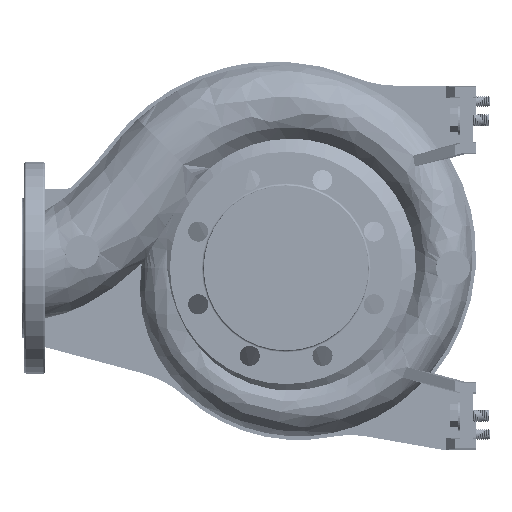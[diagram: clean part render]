
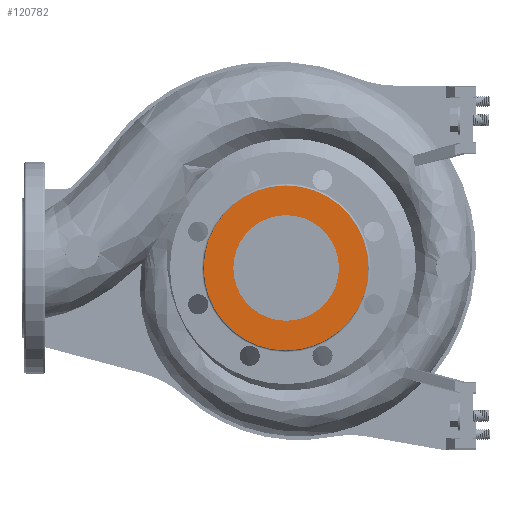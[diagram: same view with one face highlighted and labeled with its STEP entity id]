
A CAD part, left-side view. The second image highlights one B-rep face of the part: STEP entity #120782.
In plain terms, the highlighted planar face has unit normal (-1, 0, 0).
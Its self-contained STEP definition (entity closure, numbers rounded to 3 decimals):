
#5933 = DIRECTION ( 'NONE',  ( -1., 0., 0. ) ) ;
#8127 = AXIS2_PLACEMENT_3D ( 'NONE', #123457, #39778, #156558 ) ;
#9199 = AXIS2_PLACEMENT_3D ( 'NONE', #185511, #88447, #203128 ) ;
#13965 = ORIENTED_EDGE ( 'NONE', *, *, #31598, .F. ) ;
#15960 = FACE_OUTER_BOUND ( 'NONE', #159195, .T. ) ;
#19654 = AXIS2_PLACEMENT_3D ( 'NONE', #129948, #177470, #61711 ) ;
#26270 = ORIENTED_EDGE ( 'NONE', *, *, #29918, .T. ) ;
#29918 = EDGE_CURVE ( 'NONE', #195946, #85563, #47887, .T. ) ;
#30306 = CARTESIAN_POINT ( 'NONE',  ( -125., 0., 0. ) ) ;
#31378 = PLANE ( 'NONE',  #51839 ) ;
#31598 = EDGE_CURVE ( 'NONE', #176187, #100689, #160500, .T. ) ;
#32457 = DIRECTION ( 'NONE',  ( 0., 0., -1. ) ) ;
#39778 = DIRECTION ( 'NONE',  ( -1., 0., 0. ) ) ;
#47887 = CIRCLE ( 'NONE', #79473, 78. ) ;
#51839 = AXIS2_PLACEMENT_3D ( 'NONE', #30306, #66603, #32457 ) ;
#58692 = EDGE_CURVE ( 'NONE', #85563, #195946, #103122, .T. ) ;
#61711 = DIRECTION ( 'NONE',  ( 0., 0., 1. ) ) ;
#66603 = DIRECTION ( 'NONE',  ( 1., 0., 0. ) ) ;
#75456 = CARTESIAN_POINT ( 'NONE',  ( -125., 0., 50. ) ) ;
#79473 = AXIS2_PLACEMENT_3D ( 'NONE', #91826, #5933, #87488 ) ;
#79849 = FACE_BOUND ( 'NONE', #164465, .T. ) ;
#85563 = VERTEX_POINT ( 'NONE', #199093 ) ;
#86021 = EDGE_CURVE ( 'NONE', #100689, #176187, #128531, .T. ) ;
#87488 = DIRECTION ( 'NONE',  ( 0., 0., 1. ) ) ;
#88447 = DIRECTION ( 'NONE',  ( -1., 0., 0. ) ) ;
#91826 = CARTESIAN_POINT ( 'NONE',  ( -125., 0., 0. ) ) ;
#93501 = ORIENTED_EDGE ( 'NONE', *, *, #86021, .F. ) ;
#100689 = VERTEX_POINT ( 'NONE', #75456 ) ;
#103122 = CIRCLE ( 'NONE', #8127, 78. ) ;
#120782 = ADVANCED_FACE ( 'NONE', ( #79849, #15960 ), #31378, .F. ) ;
#123457 = CARTESIAN_POINT ( 'NONE',  ( -125., 0., 0. ) ) ;
#128531 = CIRCLE ( 'NONE', #19654, 50. ) ;
#129948 = CARTESIAN_POINT ( 'NONE',  ( -125., 0., 0. ) ) ;
#137255 = ORIENTED_EDGE ( 'NONE', *, *, #58692, .T. ) ;
#156558 = DIRECTION ( 'NONE',  ( 0., 0., 1. ) ) ;
#159195 = EDGE_LOOP ( 'NONE', ( #137255, #26270 ) ) ;
#160500 = CIRCLE ( 'NONE', #9199, 50. ) ;
#164465 = EDGE_LOOP ( 'NONE', ( #93501, #13965 ) ) ;
#176187 = VERTEX_POINT ( 'NONE', #207602 ) ;
#177470 = DIRECTION ( 'NONE',  ( -1., 0., 0. ) ) ;
#185511 = CARTESIAN_POINT ( 'NONE',  ( -125., 0., 0. ) ) ;
#194410 = CARTESIAN_POINT ( 'NONE',  ( -125., 0., -78. ) ) ;
#195946 = VERTEX_POINT ( 'NONE', #194410 ) ;
#199093 = CARTESIAN_POINT ( 'NONE',  ( -125., 0., 78. ) ) ;
#203128 = DIRECTION ( 'NONE',  ( 0., 0., 1. ) ) ;
#207602 = CARTESIAN_POINT ( 'NONE',  ( -125., 0., -50. ) ) ;
